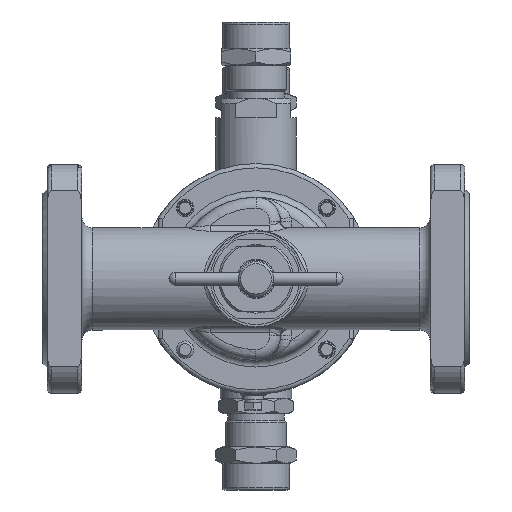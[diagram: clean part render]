
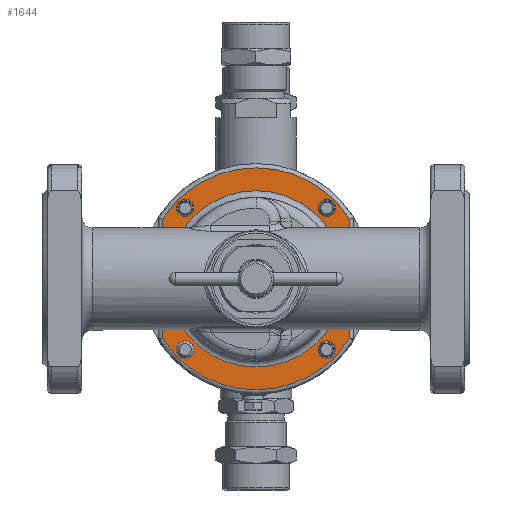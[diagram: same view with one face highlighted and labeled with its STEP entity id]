
A CAD part, front view. The second image highlights one B-rep face of the part: STEP entity #1644.
In plain terms, the highlighted planar face has unit normal (0, -1, 0).
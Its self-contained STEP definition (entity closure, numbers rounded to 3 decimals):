
#1644=ADVANCED_FACE('',(#17868,#17870,#17872,#17874,#17876,#17878),#17880,.F.);
#17868=FACE_BOUND('',#17869,.T.);
#17869=EDGE_LOOP('',(#31692));
#17870=FACE_BOUND('',#17871,.T.);
#17871=EDGE_LOOP('',(#31693));
#17872=FACE_BOUND('',#17873,.T.);
#17873=EDGE_LOOP('',(#31694));
#17874=FACE_BOUND('',#17875,.T.);
#17875=EDGE_LOOP('',(#31695));
#17876=FACE_BOUND('',#17877,.T.);
#17877=EDGE_LOOP('',(#31696));
#17878=FACE_OUTER_BOUND('',#17879,.T.);
#17879=EDGE_LOOP('',(#31697,#31698,#31699,#31700));
#17880=PLANE('',#17881);
#17881=AXIS2_PLACEMENT_3D('',#17882,#17883,#17884);
#17882=CARTESIAN_POINT('',(0.,30.,0.));
#17883=DIRECTION('',(0.,1.,0.));
#17884=DIRECTION('',(-1.,0.,0.));
#31692=ORIENTED_EDGE('',*,*,#40467,.F.);
#31693=ORIENTED_EDGE('',*,*,#40468,.F.);
#31694=ORIENTED_EDGE('',*,*,#40469,.F.);
#31695=ORIENTED_EDGE('',*,*,#40470,.F.);
#31696=ORIENTED_EDGE('',*,*,#40471,.F.);
#31697=ORIENTED_EDGE('',*,*,#40422,.F.);
#31698=ORIENTED_EDGE('',*,*,#40430,.F.);
#31699=ORIENTED_EDGE('',*,*,#40427,.F.);
#31700=ORIENTED_EDGE('',*,*,#40425,.F.);
#40422=EDGE_CURVE('',#48384,#48386,#48387,.T.);
#40425=EDGE_CURVE('',#48386,#48390,#48391,.T.);
#40427=EDGE_CURVE('',#48390,#48393,#48394,.T.);
#40430=EDGE_CURVE('',#48393,#48384,#48397,.T.);
#40467=EDGE_CURVE('',#48446,#48446,#48447,.T.);
#40468=EDGE_CURVE('',#48448,#48448,#48449,.T.);
#40469=EDGE_CURVE('',#48450,#48450,#48451,.T.);
#40470=EDGE_CURVE('',#48452,#48452,#48453,.T.);
#40471=EDGE_CURVE('',#48454,#48454,#48455,.T.);
#48384=VERTEX_POINT('',#72855);
#48386=VERTEX_POINT('',#72870);
#48387=CIRCLE('',#72871,51.);
#48390=VERTEX_POINT('',#72903);
#48391=LINE('',#72904,#72905);
#48393=VERTEX_POINT('',#72926);
#48394=CIRCLE('',#72927,51.);
#48397=LINE('',#72964,#72965);
#48446=VERTEX_POINT('',#73430);
#48447=CIRCLE('',#73431,4.);
#48448=VERTEX_POINT('',#73435);
#48449=CIRCLE('',#73436,4.);
#48450=VERTEX_POINT('',#73440);
#48451=CIRCLE('',#73441,40.5);
#48452=VERTEX_POINT('',#73445);
#48453=CIRCLE('',#73446,4.);
#48454=VERTEX_POINT('',#73450);
#48455=CIRCLE('',#73451,4.);
#72855=CARTESIAN_POINT('',(43.,30.,-27.423));
#72870=CARTESIAN_POINT('',(-43.,30.,-27.423));
#72871=AXIS2_PLACEMENT_3D('',#72872,#72873,#72874);
#72872=CARTESIAN_POINT('',(0.,30.,0.));
#72873=DIRECTION('',(0.,1.,0.));
#72874=DIRECTION('',(0.843,0.,-0.538));
#72903=CARTESIAN_POINT('',(-43.,30.,27.423));
#72904=CARTESIAN_POINT('',(-43.,30.,-27.423));
#72905=VECTOR('',#72906,1.);
#72906=DIRECTION('',(0.,0.,1.));
#72926=CARTESIAN_POINT('',(43.,30.,27.423));
#72927=AXIS2_PLACEMENT_3D('',#72928,#72929,#72930);
#72928=CARTESIAN_POINT('',(0.,30.,0.));
#72929=DIRECTION('',(0.,1.,0.));
#72930=DIRECTION('',(-0.843,0.,0.538));
#72964=CARTESIAN_POINT('',(43.,30.,27.423));
#72965=VECTOR('',#72966,1.);
#72966=DIRECTION('',(0.,0.,-1.));
#73430=CARTESIAN_POINT('',(-28.806,30.,31.059));
#73431=AXIS2_PLACEMENT_3D('',#73432,#73433,#73434);
#73432=CARTESIAN_POINT('',(-32.527,30.,32.527));
#73433=DIRECTION('',(0.,-1.,0.));
#73434=DIRECTION('',(0.93,0.,-0.367));
#73435=CARTESIAN_POINT('',(28.806,30.,-31.059));
#73436=AXIS2_PLACEMENT_3D('',#73437,#73438,#73439);
#73437=CARTESIAN_POINT('',(32.527,30.,-32.527));
#73438=DIRECTION('',(0.,-1.,0.));
#73439=DIRECTION('',(-0.93,0.,0.367));
#73440=CARTESIAN_POINT('',(-40.5,30.,0.));
#73441=AXIS2_PLACEMENT_3D('',#73442,#73443,#73444);
#73442=CARTESIAN_POINT('',(0.,30.,0.));
#73443=DIRECTION('',(0.,-1.,0.));
#73444=DIRECTION('',(-1.,0.,0.));
#73445=CARTESIAN_POINT('',(-31.059,30.,-28.806));
#73446=AXIS2_PLACEMENT_3D('',#73447,#73448,#73449);
#73447=CARTESIAN_POINT('',(-32.527,30.,-32.527));
#73448=DIRECTION('',(0.,-1.,0.));
#73449=DIRECTION('',(0.367,0.,0.93));
#73450=CARTESIAN_POINT('',(31.059,30.,28.806));
#73451=AXIS2_PLACEMENT_3D('',#73452,#73453,#73454);
#73452=CARTESIAN_POINT('',(32.527,30.,32.527));
#73453=DIRECTION('',(0.,-1.,0.));
#73454=DIRECTION('',(-0.367,0.,-0.93));
